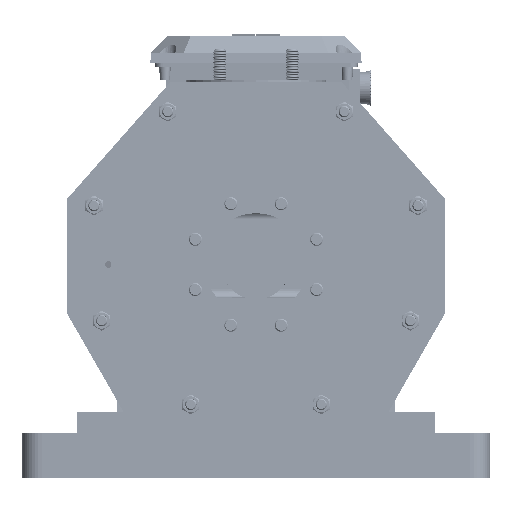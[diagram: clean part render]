
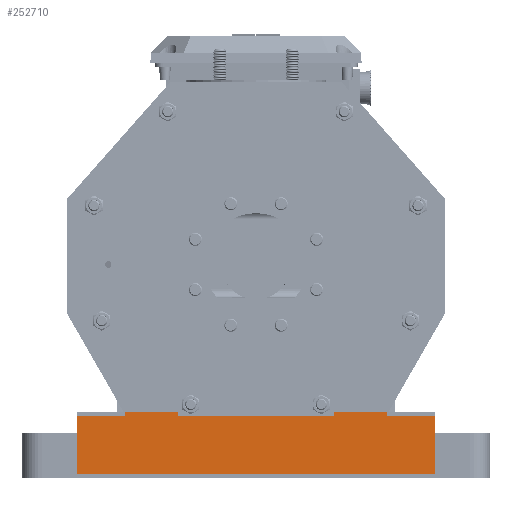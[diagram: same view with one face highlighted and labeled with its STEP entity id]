
A CAD part, front view. The second image highlights one B-rep face of the part: STEP entity #252710.
In plain terms, the highlighted planar face has unit normal (0, -1, 0).
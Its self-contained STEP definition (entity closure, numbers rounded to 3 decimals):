
#251192=CARTESIAN_POINT('',(-217.5,17.,-175.0));
#251193=VERTEX_POINT('',#251192);
#251200=CARTESIAN_POINT('',(-160.0,17.,-175.0));
#251201=VERTEX_POINT('',#251200);
#251202=CARTESIAN_POINT('',(-160.0,17.,-175.0));
#251203=DIRECTION('',(-1.0,0.0,0.0));
#251204=VECTOR('',#251203,57.5);
#251205=LINE('',#251202,#251204);
#251206=EDGE_CURVE('',#251201,#251193,#251205,.T.);
#251224=CARTESIAN_POINT('',(-95.,17.,-175.0));
#251225=VERTEX_POINT('',#251224);
#251232=CARTESIAN_POINT('',(95.0,17.,-175.0));
#251233=VERTEX_POINT('',#251232);
#251234=CARTESIAN_POINT('',(95.0,17.,-175.0));
#251235=DIRECTION('',(-1.0,0.0,0.0));
#251236=VECTOR('',#251235,190.);
#251237=LINE('',#251234,#251236);
#251238=EDGE_CURVE('',#251233,#251225,#251237,.T.);
#251256=CARTESIAN_POINT('',(160.0,17.,-175.0));
#251257=VERTEX_POINT('',#251256);
#251264=CARTESIAN_POINT('',(217.5,17.,-175.0));
#251265=VERTEX_POINT('',#251264);
#251266=CARTESIAN_POINT('',(217.5,17.,-175.0));
#251267=DIRECTION('',(-1.0,0.0,0.0));
#251268=VECTOR('',#251267,57.5);
#251269=LINE('',#251266,#251268);
#251270=EDGE_CURVE('',#251265,#251257,#251269,.T.);
#251422=CARTESIAN_POINT('',(-160.0,17.,-170.0));
#251423=VERTEX_POINT('',#251422);
#251439=CARTESIAN_POINT('',(-160.0,17.,-175.0));
#251440=DIRECTION('',(0.0,0.0,1.0));
#251441=VECTOR('',#251440,5.0);
#251442=LINE('',#251439,#251441);
#251443=EDGE_CURVE('',#251201,#251423,#251442,.T.);
#251477=CARTESIAN_POINT('',(-95.,17.,-170.0));
#251478=VERTEX_POINT('',#251477);
#251485=CARTESIAN_POINT('',(-95.,17.,-175.0));
#251486=DIRECTION('',(0.0,0.0,1.0));
#251487=VECTOR('',#251486,5.0);
#251488=LINE('',#251485,#251487);
#251489=EDGE_CURVE('',#251225,#251478,#251488,.T.);
#251501=CARTESIAN_POINT('',(-95.,17.,-170.0));
#251502=DIRECTION('',(-1.0,0.0,0.0));
#251503=VECTOR('',#251502,65.);
#251504=LINE('',#251501,#251503);
#251505=EDGE_CURVE('',#251478,#251423,#251504,.T.);
#251557=CARTESIAN_POINT('',(160.0,17.,-170.0));
#251558=VERTEX_POINT('',#251557);
#251565=CARTESIAN_POINT('',(160.0,17.,-175.0));
#251566=DIRECTION('',(0.0,0.0,1.0));
#251567=VECTOR('',#251566,5.0);
#251568=LINE('',#251565,#251567);
#251569=EDGE_CURVE('',#251257,#251558,#251568,.T.);
#251581=CARTESIAN_POINT('',(95.0,17.,-170.0));
#251582=VERTEX_POINT('',#251581);
#251591=CARTESIAN_POINT('',(95.0,17.,-175.0));
#251592=DIRECTION('',(0.0,0.0,1.0));
#251593=VECTOR('',#251592,5.0);
#251594=LINE('',#251591,#251593);
#251595=EDGE_CURVE('',#251233,#251582,#251594,.T.);
#251607=CARTESIAN_POINT('',(160.0,17.,-170.0));
#251608=DIRECTION('',(-1.0,0.0,0.0));
#251609=VECTOR('',#251608,65.0);
#251610=LINE('',#251607,#251609);
#251611=EDGE_CURVE('',#251558,#251582,#251610,.T.);
#252606=CARTESIAN_POINT('',(217.5,17.,-245.0));
#252607=VERTEX_POINT('',#252606);
#252614=CARTESIAN_POINT('',(-217.5,17.,-245.0));
#252615=VERTEX_POINT('',#252614);
#252616=CARTESIAN_POINT('',(-217.5,17.,-245.0));
#252617=DIRECTION('',(1.0,0.0,0.0));
#252618=VECTOR('',#252617,435.0);
#252619=LINE('',#252616,#252618);
#252620=EDGE_CURVE('',#252615,#252607,#252619,.T.);
#252681=CARTESIAN_POINT('',(217.5,17.,-250.0));
#252682=DIRECTION('',(0.0,-1.0,0.0));
#252683=DIRECTION('',(0.0,0.0,-1.0));
#252684=AXIS2_PLACEMENT_3D('',#252681,#252682,#252683);
#252685=PLANE('',#252684);
#252686=ORIENTED_EDGE('',*,*,#252620,.T.);
#252687=CARTESIAN_POINT('',(217.5,17.,-245.0));
#252688=DIRECTION('',(0.0,0.0,1.0));
#252689=VECTOR('',#252688,70.0);
#252690=LINE('',#252687,#252689);
#252691=EDGE_CURVE('',#252607,#251265,#252690,.T.);
#252692=ORIENTED_EDGE('',*,*,#252691,.T.);
#252693=ORIENTED_EDGE('',*,*,#251270,.T.);
#252694=ORIENTED_EDGE('',*,*,#251569,.T.);
#252695=ORIENTED_EDGE('',*,*,#251611,.T.);
#252696=ORIENTED_EDGE('',*,*,#251595,.F.);
#252697=ORIENTED_EDGE('',*,*,#251238,.T.);
#252698=ORIENTED_EDGE('',*,*,#251489,.T.);
#252699=ORIENTED_EDGE('',*,*,#251505,.T.);
#252700=ORIENTED_EDGE('',*,*,#251443,.F.);
#252701=ORIENTED_EDGE('',*,*,#251206,.T.);
#252702=CARTESIAN_POINT('',(-217.5,17.,-245.0));
#252703=DIRECTION('',(0.0,0.0,1.0));
#252704=VECTOR('',#252703,70.0);
#252705=LINE('',#252702,#252704);
#252706=EDGE_CURVE('',#252615,#251193,#252705,.T.);
#252707=ORIENTED_EDGE('',*,*,#252706,.F.);
#252708=EDGE_LOOP('',(#252686,#252692,#252693,#252694,#252695,#252696,#252697,#252698,#252699,#252700,#252701,#252707));
#252709=FACE_OUTER_BOUND('',#252708,.T.);
#252710=ADVANCED_FACE('',(#252709),#252685,.T.);
